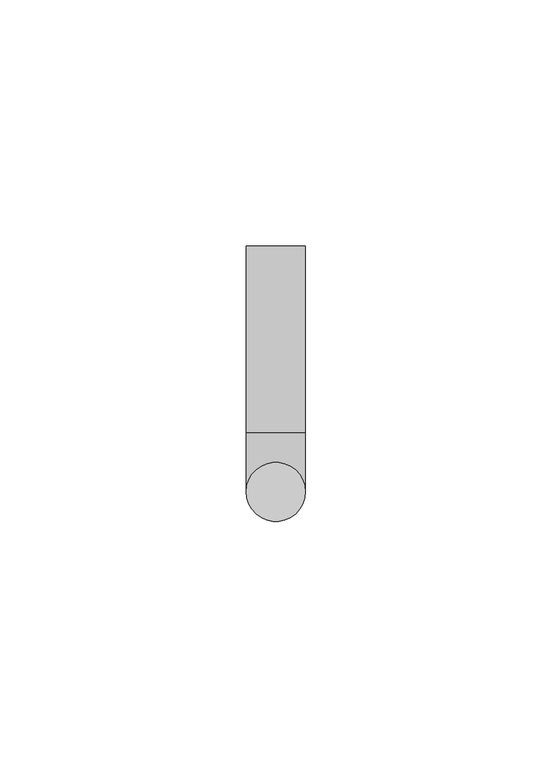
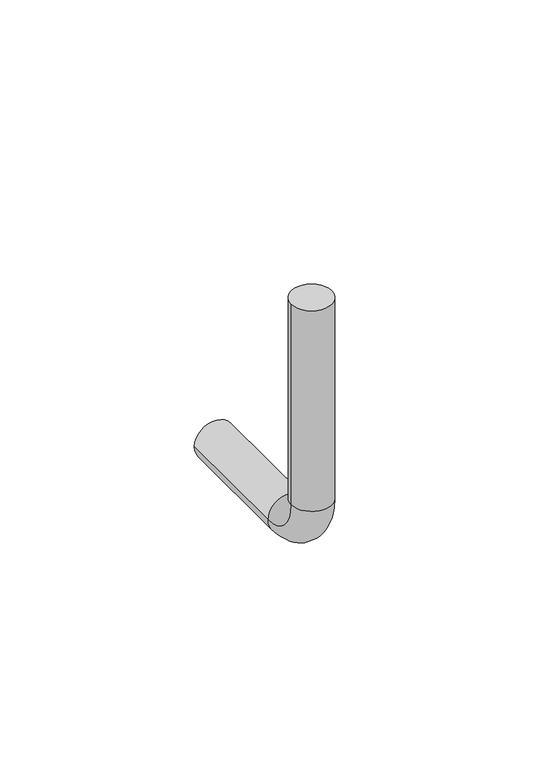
"""IFC4 building model written with IfcOpenShell, lengths in millimetres: proxy geometry, Soporte - Metal  : Soporte - Metal ."""

from ifc_helpers import new_model, si_unit, point, frame, origin, origin_with_axes, place, context, project, spatial, circle_curve, ellipse_curve, trimmed, source, transform, mapped, element, save
from ifc_brep_helpers import plane_surface, cylinder_surface, revolved_surface, advanced_brep


def building_element_proxy_06157dc2(model_context):
    return source(origin(), model_context, "Body", "AdvancedBrep", [
        advanced_brep(
        [(-6.0, 0.0, 0.0), (6.0, 0.0, 0.0), (-6.0, 0.0, -63.0), (6.0, 0.0, -63.0), (6.0, 12.0, -75.0), (-6.0, 12.0, -75.0), (-6.0, 49.9192967, -75.0), (6.0, 49.9192967, -75.0)],
        [
            (0, 1, circle_curve(origin_with_axes(), 6.0)),
            (1, 0, circle_curve(origin_with_axes(), 6.0)),
            (0, 2),
            (2, 3, circle_curve(frame((0.0, 0.0, -63.0), z_axis=(0.0, 0.0, 1.0), x_axis=(1.0, 0.0, 0.0)), 6.0)),
            (3, 1),
            (3, 2, circle_curve(frame((0.0, 0.0, -63.0), z_axis=(0.0, 0.0, 1.0), x_axis=(1.0, 0.0, 0.0)), 6.0)),
            (4, 3, circle_curve(frame((6.0, 12.0, -63.0), z_axis=(-1.0, 0.0, 0.0), x_axis=(0.0, -1.0, 0.0)), 12.0)),
            (2, 5, circle_curve(frame((-6.0, 12.0, -63.0), z_axis=(1.0, 0.0, 0.0), x_axis=(0.0, -1.0, 0.0)), 12.0)),
            (5, 4, circle_curve(frame((0.0, 12.0, -75.0), z_axis=(0.0, -1.0, 0.0), x_axis=(1.0, 0.0, 0.0)), 6.0)),
            (4, 5, circle_curve(frame((0.0, 12.0, -75.0), z_axis=(0.0, -1.0, 0.0), x_axis=(1.0, 0.0, 0.0)), 6.0)),
            (6, 7, circle_curve(frame((0.0, 49.9192967, -75.0), z_axis=(0.0, 1.0, 0.0), x_axis=(1.0, 0.0, 0.0)), 6.0)),
            (7, 6, circle_curve(frame((0.0, 49.9192967, -75.0), z_axis=(0.0, 1.0, 0.0), x_axis=(1.0, 0.0, 0.0)), 6.0)),
            (5, 6),
            (7, 4),
        ],
        [
            plane_surface(origin_with_axes()),
            cylinder_surface(origin_with_axes(), 6.0),
            revolved_surface(trimmed(ellipse_curve(frame((0.0, 0.0, -63.0), z_axis=(0.0, 0.0, 1.0), x_axis=(1.0, 0.0, 0.0)), 6.0, 6.0), [point((-6.0, 0.0, -63.0))], [point((6.0, 0.0, -63.0))], True, "CARTESIAN"), (0.0, 12.0, -63.0), (1.0, 0.0, 0.0)),
            revolved_surface(trimmed(ellipse_curve(frame((0.0, 0.0, -63.0), z_axis=(0.0, 0.0, 1.0), x_axis=(1.0, 0.0, 0.0)), 6.0, 6.0), [point((6.0, 0.0, -63.0))], [point((-6.0, 0.0, -63.0))], True, "CARTESIAN"), (0.0, 12.0, -63.0), (1.0, 0.0, 0.0)),
            plane_surface(frame((0.0, 49.9192967, -75.0), z_axis=(0.0, 1.0, 0.0), x_axis=(1.0, 0.0, 0.0))),
            cylinder_surface(frame((0.0, 12.0, -75.0), z_axis=(0.0, -1.0, 0.0), x_axis=(1.0, 0.0, 0.0)), 6.0),
        ],
        [
            (0, [[1, 2]]),
            (1, [[-1, 3, 4, 5]]),
            (1, [[-2, -5, 6, -3]]),
            (2, [[7, -4, 8, 9]]),
            (3, [[-8, -6, -7, 10]]),
            (4, [[11, 12]]),
            (5, [[-9, 13, -12, 14]]),
            (5, [[-10, -14, -11, -13]]),
        ],
    ),
    ])


if __name__ == "__main__":
    model = new_model("IFC4")
    model_context = context("Model", 3, world=origin())
    ifc_project = project(units=[si_unit("LENGTHUNIT", "METRE", prefix="MILLI")], contexts=[model_context])
    site = spatial("IfcSite", under=ifc_project)
    building = spatial("IfcBuilding", under=site)
    placement = place(None, origin())
    building_element_proxy_shape = building_element_proxy_06157dc2(model_context)
    element("IfcBuildingElementProxy", 1, Name="Soporte - Metal  : Soporte - Metal ", ObjectType="Soporte - Metal  : Soporte - Metal ", at=placement, inside=building, context=model_context, shape_type="MappedRepresentation", body=[
        mapped(building_element_proxy_shape, transform((0.0, 0.0, 0.0), x_axis=(1.0, 0.0, 0.0), y_axis=(0.0, 1.0, 0.0), z_axis=(0.0, 0.0, 1.0))),
    ])
    save(model, "model.ifc")
